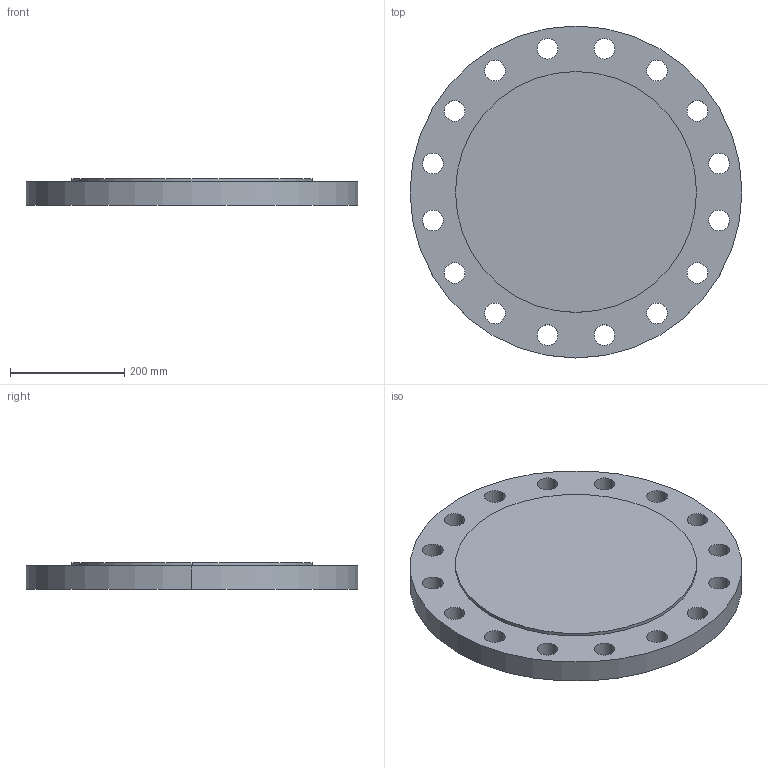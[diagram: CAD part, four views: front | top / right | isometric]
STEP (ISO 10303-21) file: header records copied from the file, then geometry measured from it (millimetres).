
FILE_DESCRIPTION (( 'STEP AP214' ), '1' );
FILE_NAME ('PN40 DN350 Type 05 - Type E Face.STEP', '2019-01-05T21:55:49', ( '' ), ( '' ), 'SwSTEP 2.0', 'SolidWorks 2019', '' );
FILE_SCHEMA (( 'AUTOMOTIVE_DESIGN' ));
Length unit declared in the file: millimetre
Products named in the file (1): PN40 DN350 Type 05 - Type E Face
Bounding box: 580 x 580 x 46 mm (x, y, z)
Volume: 10806464.2 mm3; surface area: 650201.3 mm2
Topology: 1 solids, 1 shells, 39 faces, 108 edges, 72 vertices
Faces by surface type: cylinder 36, plane 3
Entity records: 1392 total; most frequent: DIRECTION 260, CARTESIAN_POINT 220, ORIENTED_EDGE 216, AXIS2_PLACEMENT_3D 112, EDGE_CURVE 108, CIRCLE 72, VERTEX_POINT 72, EDGE_LOOP 72
